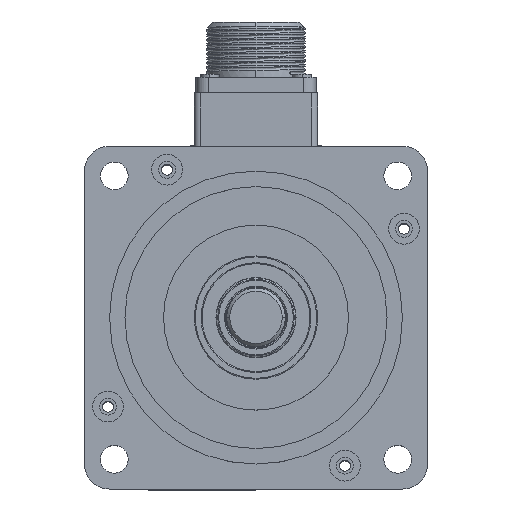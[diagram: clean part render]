
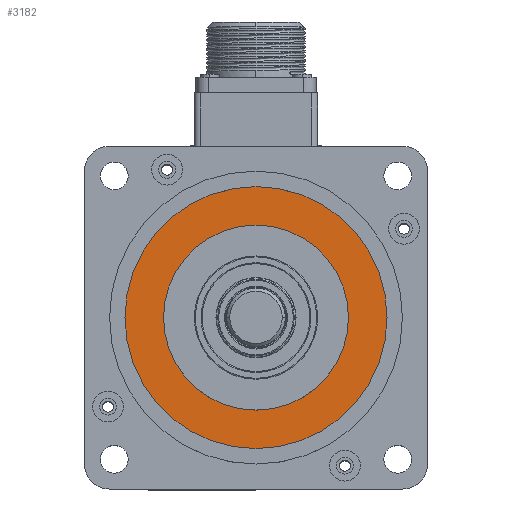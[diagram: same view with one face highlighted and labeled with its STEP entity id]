
A CAD part, top view. The second image highlights one B-rep face of the part: STEP entity #3182.
In plain terms, the highlighted planar face has unit normal (0, 0, 1) as drawn and (1, 0, 0) by its records, which use the part's own axes.
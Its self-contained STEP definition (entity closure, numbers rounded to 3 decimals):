
#2700 = CARTESIAN_POINT ( 'NONE',  ( 12.5, 0., 30. ) ) ;
#3182 = ADVANCED_FACE ( 'NONE', ( #56177, #11381 ), #7642, .F. ) ;
#4217 = CARTESIAN_POINT ( 'NONE',  ( 12.5, 0., -42.5 ) ) ;
#4462 = DIRECTION ( 'NONE',  ( -1., 0., 0. ) ) ;
#5972 = CARTESIAN_POINT ( 'NONE',  ( 12.5, 0., 0. ) ) ;
#6814 = CIRCLE ( 'NONE', #37192, 30. ) ;
#7642 = PLANE ( 'NONE',  #57610 ) ;
#7834 = VERTEX_POINT ( 'NONE', #4217 ) ;
#8441 = CIRCLE ( 'NONE', #28343, 30. ) ;
#10491 = DIRECTION ( 'NONE',  ( 0., 0., 1. ) ) ;
#10714 = VERTEX_POINT ( 'NONE', #12730 ) ;
#11381 = FACE_BOUND ( 'NONE', #55904, .T. ) ;
#12730 = CARTESIAN_POINT ( 'NONE',  ( 12.5, 0., -30. ) ) ;
#14148 = CARTESIAN_POINT ( 'NONE',  ( 12.5, 0., 42.5 ) ) ;
#16436 = ORIENTED_EDGE ( 'NONE', *, *, #35832, .T. ) ;
#16661 = DIRECTION ( 'NONE',  ( -1., 0., 0. ) ) ;
#20466 = CIRCLE ( 'NONE', #22737, 42.5 ) ;
#20964 = CARTESIAN_POINT ( 'NONE',  ( 12.5, 30., 0. ) ) ;
#22737 = AXIS2_PLACEMENT_3D ( 'NONE', #51989, #25215, #56520 ) ;
#22748 = DIRECTION ( 'NONE',  ( -1., 0., 0. ) ) ;
#24882 = EDGE_LOOP ( 'NONE', ( #29211, #39954 ) ) ;
#25215 = DIRECTION ( 'NONE',  ( -1., 0., 0. ) ) ;
#25874 = CIRCLE ( 'NONE', #33302, 42.5 ) ;
#28343 = AXIS2_PLACEMENT_3D ( 'NONE', #49490, #22748, #54019 ) ;
#28888 = EDGE_CURVE ( 'NONE', #42469, #7834, #25874, .T. ) ;
#29211 = ORIENTED_EDGE ( 'NONE', *, *, #28888, .F. ) ;
#31284 = CARTESIAN_POINT ( 'NONE',  ( 12.5, 0., 0. ) ) ;
#33302 = AXIS2_PLACEMENT_3D ( 'NONE', #31284, #4462, #35755 ) ;
#33995 = VERTEX_POINT ( 'NONE', #2700 ) ;
#35755 = DIRECTION ( 'NONE',  ( 0., 0., 1. ) ) ;
#35832 = EDGE_CURVE ( 'NONE', #33995, #10714, #8441, .T. ) ;
#37192 = AXIS2_PLACEMENT_3D ( 'NONE', #5972, #37293, #10491 ) ;
#37293 = DIRECTION ( 'NONE',  ( -1., 0., 0. ) ) ;
#38054 = EDGE_CURVE ( 'NONE', #10714, #33995, #6814, .T. ) ;
#39954 = ORIENTED_EDGE ( 'NONE', *, *, #51124, .F. ) ;
#42469 = VERTEX_POINT ( 'NONE', #14148 ) ;
#47884 = DIRECTION ( 'NONE',  ( 0., 0., 1. ) ) ;
#48473 = ORIENTED_EDGE ( 'NONE', *, *, #38054, .T. ) ;
#49490 = CARTESIAN_POINT ( 'NONE',  ( 12.5, 0., 0. ) ) ;
#51124 = EDGE_CURVE ( 'NONE', #7834, #42469, #20466, .T. ) ;
#51989 = CARTESIAN_POINT ( 'NONE',  ( 12.5, 0., 0. ) ) ;
#54019 = DIRECTION ( 'NONE',  ( 0., 0., 1. ) ) ;
#55904 = EDGE_LOOP ( 'NONE', ( #16436, #48473 ) ) ;
#56177 = FACE_OUTER_BOUND ( 'NONE', #24882, .T. ) ;
#56520 = DIRECTION ( 'NONE',  ( 0., 0., 1. ) ) ;
#57610 = AXIS2_PLACEMENT_3D ( 'NONE', #20964, #16661, #47884 ) ;
